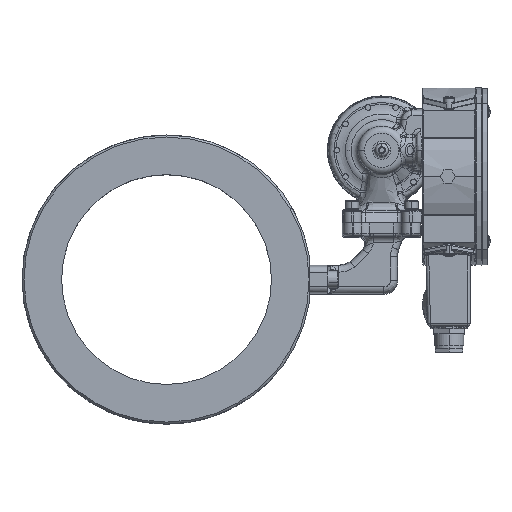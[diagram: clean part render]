
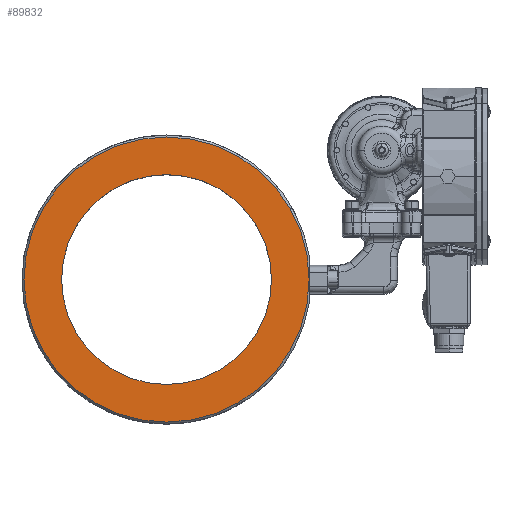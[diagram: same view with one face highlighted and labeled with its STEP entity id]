
A CAD part, top view. The second image highlights one B-rep face of the part: STEP entity #89832.
In plain terms, the highlighted planar face has unit normal (0, 0, 1).
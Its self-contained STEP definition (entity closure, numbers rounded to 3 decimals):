
#981 = DIRECTION ( 'NONE',  ( 0., 0., -1. ) ) ;
#1256 = CARTESIAN_POINT ( 'NONE',  ( -163.19, -67.693, 57.468 ) ) ;
#1330 = DIRECTION ( 'NONE',  ( 0., 0., 1. ) ) ;
#2102 = CIRCLE ( 'NONE', #100134, 108. ) ;
#2681 = ORIENTED_EDGE ( 'NONE', *, *, #48138, .T. ) ;
#4417 = CARTESIAN_POINT ( 'NONE',  ( -163.19, -67.693, 57.468 ) ) ;
#5644 = CARTESIAN_POINT ( 'NONE',  ( -163.19, -67.693, 57.468 ) ) ;
#6207 = AXIS2_PLACEMENT_3D ( 'NONE', #1256, #56723, #9262 ) ;
#8948 = CARTESIAN_POINT ( 'NONE',  ( -242.69, -67.693, 57.468 ) ) ;
#9262 = DIRECTION ( 'NONE',  ( -1., 0., 0. ) ) ;
#10309 = DIRECTION ( 'NONE',  ( 0., 0., -1. ) ) ;
#12459 = DIRECTION ( 'NONE',  ( 0., 1., 0. ) ) ;
#13667 = DIRECTION ( 'NONE',  ( 0., 1., 0. ) ) ;
#14558 = FACE_BOUND ( 'NONE', #75562, .T. ) ;
#17438 = CARTESIAN_POINT ( 'NONE',  ( -83.69, -67.693, 57.468 ) ) ;
#19664 = CIRCLE ( 'NONE', #64375, 108. ) ;
#24767 = ORIENTED_EDGE ( 'NONE', *, *, #88646, .F. ) ;
#24964 = CARTESIAN_POINT ( 'NONE',  ( -153.288, -67.693, 57.468 ) ) ;
#29888 = ORIENTED_EDGE ( 'NONE', *, *, #44224, .T. ) ;
#32078 = AXIS2_PLACEMENT_3D ( 'NONE', #24964, #1330, #56799 ) ;
#34568 = CARTESIAN_POINT ( 'NONE',  ( -163.19, -175.693, 57.468 ) ) ;
#39044 = VERTEX_POINT ( 'NONE', #17438 ) ;
#42451 = VERTEX_POINT ( 'NONE', #34568 ) ;
#42486 = CIRCLE ( 'NONE', #45527, 108. ) ;
#44224 = EDGE_CURVE ( 'NONE', #39044, #68405, #69974, .T. ) ;
#45218 = VERTEX_POINT ( 'NONE', #47513 ) ;
#45527 = AXIS2_PLACEMENT_3D ( 'NONE', #48498, #981, #56441 ) ;
#47513 = CARTESIAN_POINT ( 'NONE',  ( -163.19, 40.307, 57.468 ) ) ;
#48138 = EDGE_CURVE ( 'NONE', #68405, #39044, #54195, .T. ) ;
#48498 = CARTESIAN_POINT ( 'NONE',  ( -163.19, -67.693, 57.468 ) ) ;
#48859 = PLANE ( 'NONE',  #32078 ) ;
#54195 = CIRCLE ( 'NONE', #6207, 79.5 ) ;
#56048 = EDGE_LOOP ( 'NONE', ( #70287, #24767, #79568 ) ) ;
#56441 = DIRECTION ( 'NONE',  ( 0., 1., 0. ) ) ;
#56679 = FACE_OUTER_BOUND ( 'NONE', #56048, .T. ) ;
#56723 = DIRECTION ( 'NONE',  ( 0., 0., -1. ) ) ;
#56799 = DIRECTION ( 'NONE',  ( 1., 0., 0. ) ) ;
#57732 = CARTESIAN_POINT ( 'NONE',  ( -163.19, -67.693, 57.468 ) ) ;
#59825 = DIRECTION ( 'NONE',  ( 0., 0., -1. ) ) ;
#61025 = DIRECTION ( 'NONE',  ( 0., 0., -1. ) ) ;
#64375 = AXIS2_PLACEMENT_3D ( 'NONE', #5644, #61025, #13667 ) ;
#65583 = DIRECTION ( 'NONE',  ( -1., 0., 0. ) ) ;
#68405 = VERTEX_POINT ( 'NONE', #8948 ) ;
#69974 = CIRCLE ( 'NONE', #73504, 79.5 ) ;
#70287 = ORIENTED_EDGE ( 'NONE', *, *, #70644, .F. ) ;
#70644 = EDGE_CURVE ( 'NONE', #96255, #42451, #42486, .T. ) ;
#73504 = AXIS2_PLACEMENT_3D ( 'NONE', #57732, #10309, #65583 ) ;
#75562 = EDGE_LOOP ( 'NONE', ( #2681, #29888 ) ) ;
#79568 = ORIENTED_EDGE ( 'NONE', *, *, #90116, .F. ) ;
#83651 = CARTESIAN_POINT ( 'NONE',  ( -55.19, -67.693, 57.468 ) ) ;
#88646 = EDGE_CURVE ( 'NONE', #45218, #96255, #19664, .T. ) ;
#89832 = ADVANCED_FACE ( 'NONE', ( #14558, #56679 ), #48859, .T. ) ;
#90116 = EDGE_CURVE ( 'NONE', #42451, #45218, #2102, .T. ) ;
#96255 = VERTEX_POINT ( 'NONE', #83651 ) ;
#100134 = AXIS2_PLACEMENT_3D ( 'NONE', #4417, #59825, #12459 ) ;
